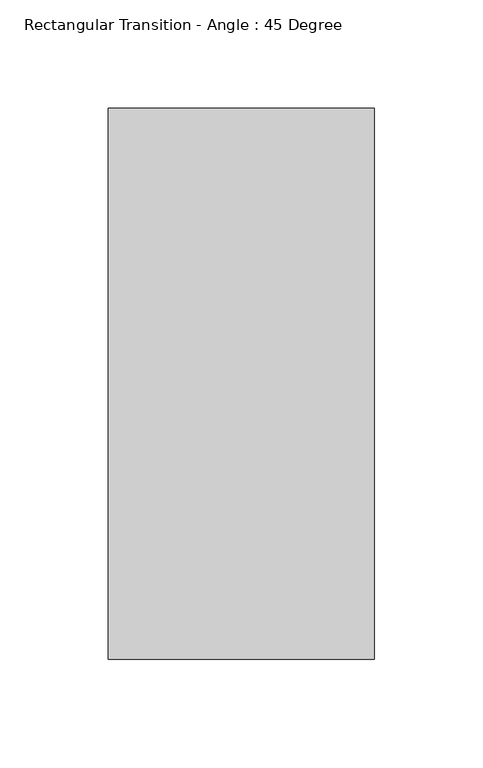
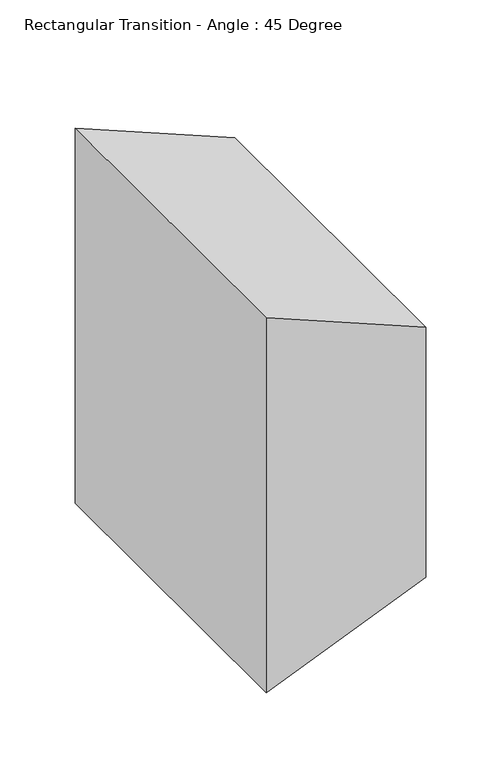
"""IFC4 building model written with IfcOpenShell, lengths in millimetres: duct fitting geometry, Rectangular Transition - Angle : 45 Degree."""

from ifc_helpers import new_model, si_unit, frame, origin, place, context, project, spatial, polyline, outline, extrude, source, transform, mapped, element, save


def rectangular_transition_angle_45_degree_21cd9d03(model_context):
    return source(origin(), model_context, "Body", "SweptSolid", [
        extrude(outline(polyline([(-152.4, 0.0), (-101.6, 122.642049), (101.6, 122.642049), (152.4, 0.0), (-152.4, 0.0)])), frame((0.0, -127.0, 0.0), z_axis=(0.0, 1.0, 0.0), x_axis=(0.0, 0.0, 1.0)), (0.0, 0.0, 1.0), 254.0),
    ])


if __name__ == "__main__":
    model = new_model("IFC4")
    model_context = context("Model", 3, world=origin())
    ifc_project = project(units=[si_unit("LENGTHUNIT", "METRE", prefix="MILLI")], contexts=[model_context])
    site = spatial("IfcSite", under=ifc_project)
    building = spatial("IfcBuilding", under=site)
    placement = place(None, origin())
    rectangular_transition_angle_45_degree_shape = rectangular_transition_angle_45_degree_21cd9d03(model_context)
    element("IfcDuctFitting", 1, ObjectType="Rectangular Transition - Angle : 45 Degree", at=placement, inside=building, context=model_context, shape_type="MappedRepresentation", body=[
        mapped(rectangular_transition_angle_45_degree_shape, transform((0.0, 0.0, 0.0), x_axis=(1.0, 0.0, 0.0), y_axis=(0.0, 1.0, 0.0), z_axis=(0.0, 0.0, 1.0))),
    ])
    save(model, "model.ifc")
